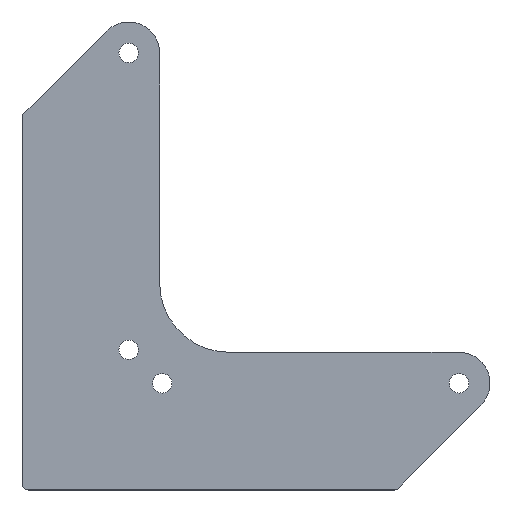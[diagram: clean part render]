
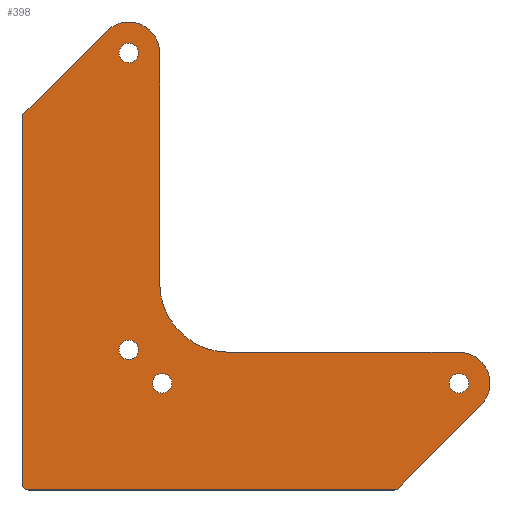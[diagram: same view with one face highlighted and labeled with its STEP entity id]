
A CAD part, top view. The second image highlights one B-rep face of the part: STEP entity #398.
In plain terms, the highlighted planar face has unit normal (0, 0, 1).
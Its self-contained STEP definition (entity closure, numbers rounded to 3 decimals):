
#25=FACE_BOUND('',#80,.T.);
#26=FACE_BOUND('',#81,.T.);
#27=FACE_BOUND('',#82,.T.);
#28=FACE_BOUND('',#83,.T.);
#36=CIRCLE('',#437,1.);
#37=CIRCLE('',#438,10.);
#38=CIRCLE('',#439,22.5);
#39=CIRCLE('',#440,10.);
#40=CIRCLE('',#441,1.);
#41=CIRCLE('',#442,2.);
#42=CIRCLE('',#443,3.15);
#43=CIRCLE('',#444,3.15);
#44=CIRCLE('',#445,3.15);
#45=CIRCLE('',#446,3.15);
#58=FACE_OUTER_BOUND('',#79,.T.);
#79=EDGE_LOOP('',(#285,#286,#287,#288,#289,#290,#291,#292,#293,#294,#295,
#296));
#80=EDGE_LOOP('',(#297));
#81=EDGE_LOOP('',(#298));
#82=EDGE_LOOP('',(#299));
#83=EDGE_LOOP('',(#300));
#108=LINE('',#605,#143);
#114=LINE('',#626,#149);
#117=LINE('',#636,#152);
#118=LINE('',#640,#153);
#119=LINE('',#645,#154);
#120=LINE('',#648,#155);
#143=VECTOR('',#480,10.);
#149=VECTOR('',#496,10.);
#152=VECTOR('',#505,10.);
#153=VECTOR('',#508,10.);
#154=VECTOR('',#513,10.);
#155=VECTOR('',#516,10.);
#176=VERTEX_POINT('',#599);
#178=VERTEX_POINT('',#603);
#186=VERTEX_POINT('',#622);
#188=VERTEX_POINT('',#625);
#190=VERTEX_POINT('',#631);
#191=VERTEX_POINT('',#633);
#192=VERTEX_POINT('',#635);
#193=VERTEX_POINT('',#637);
#194=VERTEX_POINT('',#639);
#195=VERTEX_POINT('',#642);
#196=VERTEX_POINT('',#644);
#197=VERTEX_POINT('',#646);
#198=VERTEX_POINT('',#649);
#199=VERTEX_POINT('',#651);
#200=VERTEX_POINT('',#653);
#201=VERTEX_POINT('',#655);
#216=EDGE_CURVE('',#178,#176,#108,.T.);
#225=EDGE_CURVE('',#188,#186,#114,.T.);
#228=EDGE_CURVE('',#176,#190,#36,.T.);
#229=EDGE_CURVE('',#191,#178,#37,.T.);
#230=EDGE_CURVE('',#192,#191,#117,.T.);
#231=EDGE_CURVE('',#193,#192,#38,.T.);
#232=EDGE_CURVE('',#193,#194,#118,.T.);
#233=EDGE_CURVE('',#194,#188,#39,.T.);
#234=EDGE_CURVE('',#195,#186,#40,.T.);
#235=EDGE_CURVE('',#195,#196,#119,.T.);
#236=EDGE_CURVE('',#197,#196,#41,.T.);
#237=EDGE_CURVE('',#190,#197,#120,.T.);
#238=EDGE_CURVE('',#198,#198,#42,.T.);
#239=EDGE_CURVE('',#199,#199,#43,.T.);
#240=EDGE_CURVE('',#200,#200,#44,.T.);
#241=EDGE_CURVE('',#201,#201,#45,.T.);
#285=ORIENTED_EDGE('',*,*,#228,.F.);
#286=ORIENTED_EDGE('',*,*,#216,.F.);
#287=ORIENTED_EDGE('',*,*,#229,.F.);
#288=ORIENTED_EDGE('',*,*,#230,.F.);
#289=ORIENTED_EDGE('',*,*,#231,.F.);
#290=ORIENTED_EDGE('',*,*,#232,.T.);
#291=ORIENTED_EDGE('',*,*,#233,.T.);
#292=ORIENTED_EDGE('',*,*,#225,.T.);
#293=ORIENTED_EDGE('',*,*,#234,.F.);
#294=ORIENTED_EDGE('',*,*,#235,.T.);
#295=ORIENTED_EDGE('',*,*,#236,.F.);
#296=ORIENTED_EDGE('',*,*,#237,.F.);
#297=ORIENTED_EDGE('',*,*,#238,.F.);
#298=ORIENTED_EDGE('',*,*,#239,.F.);
#299=ORIENTED_EDGE('',*,*,#240,.T.);
#300=ORIENTED_EDGE('',*,*,#241,.T.);
#387=PLANE('',#436);
#398=ADVANCED_FACE('',(#58,#25,#26,#27,#28),#387,.T.);
#436=AXIS2_PLACEMENT_3D('',#630,#499,#500);
#437=AXIS2_PLACEMENT_3D('',#632,#501,#502);
#438=AXIS2_PLACEMENT_3D('',#634,#503,#504);
#439=AXIS2_PLACEMENT_3D('',#638,#506,#507);
#440=AXIS2_PLACEMENT_3D('',#641,#509,#510);
#441=AXIS2_PLACEMENT_3D('',#643,#511,#512);
#442=AXIS2_PLACEMENT_3D('',#647,#514,#515);
#443=AXIS2_PLACEMENT_3D('',#650,#517,#518);
#444=AXIS2_PLACEMENT_3D('',#652,#519,#520);
#445=AXIS2_PLACEMENT_3D('',#654,#521,#522);
#446=AXIS2_PLACEMENT_3D('',#656,#523,#524);
#480=DIRECTION('',(-0.707,-0.707,0.));
#496=DIRECTION('',(-0.707,-0.707,0.));
#499=DIRECTION('center_axis',(0.,0.,1.));
#500=DIRECTION('ref_axis',(1.,0.,0.));
#501=DIRECTION('center_axis',(0.,0.,-1.));
#502=DIRECTION('ref_axis',(0.383,-0.924,0.));
#503=DIRECTION('center_axis',(0.,0.,-1.));
#504=DIRECTION('ref_axis',(0.,1.,0.));
#505=DIRECTION('',(1.,0.,0.));
#506=DIRECTION('center_axis',(0.,0.,1.));
#507=DIRECTION('ref_axis',(0.,-1.,0.));
#508=DIRECTION('',(0.,1.,0.));
#509=DIRECTION('center_axis',(0.,0.,1.));
#510=DIRECTION('ref_axis',(1.,0.,0.));
#511=DIRECTION('center_axis',(0.,0.,-1.));
#512=DIRECTION('ref_axis',(-0.924,0.383,0.));
#513=DIRECTION('',(0.,-1.,0.));
#514=DIRECTION('center_axis',(0.,0.,-1.));
#515=DIRECTION('ref_axis',(-0.707,-0.707,0.));
#516=DIRECTION('',(-1.,0.,0.));
#517=DIRECTION('center_axis',(0.,0.,1.));
#518=DIRECTION('ref_axis',(0.,1.,0.));
#519=DIRECTION('center_axis',(0.,0.,1.));
#520=DIRECTION('ref_axis',(0.,1.,0.));
#521=DIRECTION('center_axis',(0.,0.,-1.));
#522=DIRECTION('ref_axis',(1.,0.,0.));
#523=DIRECTION('center_axis',(0.,0.,-1.));
#524=DIRECTION('ref_axis',(1.,0.,0.));
#599=CARTESIAN_POINT('',(119.268,-1.707,1.));
#603=CARTESIAN_POINT('',(146.404,25.429,1.));
#605=CARTESIAN_POINT('',(118.975,-2.,1.));
#622=CARTESIAN_POINT('',(-1.707,119.268,1.));
#625=CARTESIAN_POINT('',(25.429,146.404,1.));
#626=CARTESIAN_POINT('',(-2.,118.975,1.));
#630=CARTESIAN_POINT('Origin',(23.545,73.667,1.));
#631=CARTESIAN_POINT('',(118.561,-2.,1.));
#632=CARTESIAN_POINT('Origin',(118.561,-1.,1.));
#633=CARTESIAN_POINT('',(139.333,42.5,1.));
#634=CARTESIAN_POINT('Origin',(139.333,32.5,1.));
#635=CARTESIAN_POINT('',(65.,42.5,1.));
#636=CARTESIAN_POINT('',(139.333,42.5,1.));
#637=CARTESIAN_POINT('',(42.5,65.,1.));
#638=CARTESIAN_POINT('Origin',(65.,65.,1.));
#639=CARTESIAN_POINT('',(42.5,139.333,1.));
#640=CARTESIAN_POINT('',(42.5,139.333,1.));
#641=CARTESIAN_POINT('Origin',(32.5,139.333,1.));
#642=CARTESIAN_POINT('',(-2.,118.561,1.));
#643=CARTESIAN_POINT('Origin',(-1.,118.561,1.));
#644=CARTESIAN_POINT('',(-2.,0.,1.));
#645=CARTESIAN_POINT('',(-2.,-2.,1.));
#646=CARTESIAN_POINT('',(0.,-2.,1.));
#647=CARTESIAN_POINT('Origin',(0.,0.,
1.));
#648=CARTESIAN_POINT('',(-2.,-2.,1.));
#649=CARTESIAN_POINT('',(139.333,29.35,1.));
#650=CARTESIAN_POINT('Origin',(139.333,32.5,1.));
#651=CARTESIAN_POINT('',(43.333,29.35,1.));
#652=CARTESIAN_POINT('Origin',(43.333,32.5,1.));
#653=CARTESIAN_POINT('',(29.35,43.333,1.));
#654=CARTESIAN_POINT('Origin',(32.5,43.333,1.));
#655=CARTESIAN_POINT('',(29.35,139.333,1.));
#656=CARTESIAN_POINT('Origin',(32.5,139.333,1.));
